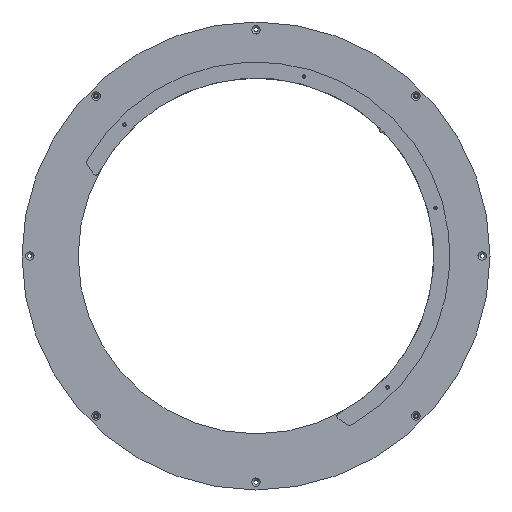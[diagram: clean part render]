
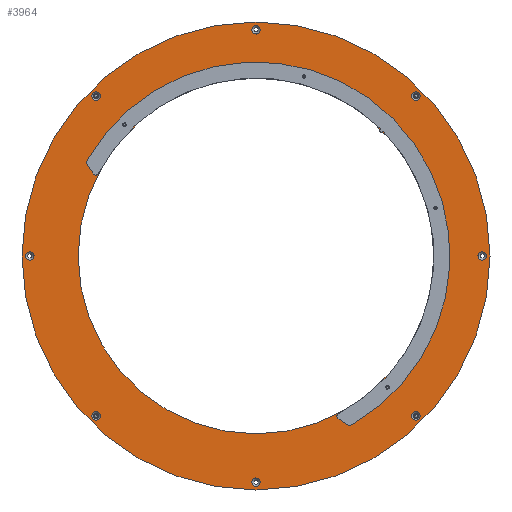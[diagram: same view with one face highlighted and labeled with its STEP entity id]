
A CAD part, front view. The second image highlights one B-rep face of the part: STEP entity #3964.
In plain terms, the highlighted planar face has unit normal (0, -1, 0).
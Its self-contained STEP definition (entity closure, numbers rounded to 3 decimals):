
#499=ORIENTED_EDGE('',*,*,#1134,.F.);
#500=ORIENTED_EDGE('',*,*,#1135,.F.);
#501=ORIENTED_EDGE('',*,*,#1136,.F.);
#502=ORIENTED_EDGE('',*,*,#1137,.F.);
#503=ORIENTED_EDGE('',*,*,#1138,.T.);
#504=ORIENTED_EDGE('',*,*,#1133,.F.);
#505=ORIENTED_EDGE('',*,*,#1106,.F.);
#506=ORIENTED_EDGE('',*,*,#1108,.F.);
#507=ORIENTED_EDGE('',*,*,#1110,.F.);
#508=ORIENTED_EDGE('',*,*,#1112,.F.);
#509=ORIENTED_EDGE('',*,*,#1114,.F.);
#510=ORIENTED_EDGE('',*,*,#1116,.F.);
#511=ORIENTED_EDGE('',*,*,#1118,.F.);
#512=ORIENTED_EDGE('',*,*,#1120,.F.);
#1106=EDGE_CURVE('',#1430,#1430,#1696,.T.);
#1108=EDGE_CURVE('',#1432,#1432,#1698,.T.);
#1110=EDGE_CURVE('',#1434,#1434,#1700,.T.);
#1112=EDGE_CURVE('',#1436,#1436,#1702,.T.);
#1114=EDGE_CURVE('',#1438,#1438,#1704,.T.);
#1116=EDGE_CURVE('',#1440,#1440,#1706,.T.);
#1118=EDGE_CURVE('',#1442,#1442,#1708,.T.);
#1120=EDGE_CURVE('',#1444,#1444,#1710,.T.);
#1133=EDGE_CURVE('',#1457,#1457,#1723,.T.);
#1134=EDGE_CURVE('',#1458,#1458,#1724,.T.);
#1135=EDGE_CURVE('',#1459,#1459,#1725,.T.);
#1136=EDGE_CURVE('',#1460,#1460,#1726,.T.);
#1137=EDGE_CURVE('',#1461,#1461,#1727,.T.);
#1138=EDGE_CURVE('',#1462,#1462,#1728,.T.);
#1430=VERTEX_POINT('',#5455);
#1432=VERTEX_POINT('',#5460);
#1434=VERTEX_POINT('',#5465);
#1436=VERTEX_POINT('',#5470);
#1438=VERTEX_POINT('',#5475);
#1440=VERTEX_POINT('',#5480);
#1442=VERTEX_POINT('',#5485);
#1444=VERTEX_POINT('',#5490);
#1457=VERTEX_POINT('',#5529);
#1458=VERTEX_POINT('',#5532);
#1459=VERTEX_POINT('',#5534);
#1460=VERTEX_POINT('',#5536);
#1461=VERTEX_POINT('',#5538);
#1462=VERTEX_POINT('',#5540);
#1696=CIRCLE('',#4170,3.15);
#1698=CIRCLE('',#4173,3.15);
#1700=CIRCLE('',#4176,3.15);
#1702=CIRCLE('',#4179,3.15);
#1704=CIRCLE('',#4182,3.15);
#1706=CIRCLE('',#4185,3.15);
#1708=CIRCLE('',#4188,3.15);
#1710=CIRCLE('',#4191,3.15);
#1723=CIRCLE('',#4217,132.5);
#1724=CIRCLE('',#4219,2.1);
#1725=CIRCLE('',#4220,2.1);
#1726=CIRCLE('',#4221,2.1);
#1727=CIRCLE('',#4222,2.1);
#1728=CIRCLE('',#4223,174.3);
#1903=EDGE_LOOP('',(#499));
#1904=EDGE_LOOP('',(#500));
#1905=EDGE_LOOP('',(#501));
#1906=EDGE_LOOP('',(#502));
#1907=EDGE_LOOP('',(#503));
#1908=EDGE_LOOP('',(#504));
#1909=EDGE_LOOP('',(#505));
#1910=EDGE_LOOP('',(#506));
#1911=EDGE_LOOP('',(#507));
#1912=EDGE_LOOP('',(#508));
#1913=EDGE_LOOP('',(#509));
#1914=EDGE_LOOP('',(#510));
#1915=EDGE_LOOP('',(#511));
#1916=EDGE_LOOP('',(#512));
#2271=FACE_BOUND('',#1903,.T.);
#2272=FACE_BOUND('',#1904,.T.);
#2273=FACE_BOUND('',#1905,.T.);
#2274=FACE_BOUND('',#1906,.T.);
#2275=FACE_BOUND('',#1907,.T.);
#2276=FACE_BOUND('',#1908,.T.);
#2277=FACE_BOUND('',#1909,.T.);
#2278=FACE_BOUND('',#1910,.T.);
#2279=FACE_BOUND('',#1911,.T.);
#2280=FACE_BOUND('',#1912,.T.);
#2281=FACE_BOUND('',#1913,.T.);
#2282=FACE_BOUND('',#1914,.T.);
#2283=FACE_BOUND('',#1915,.T.);
#2284=FACE_BOUND('',#1916,.T.);
#2592=PLANE('',#4218);
#3964=ADVANCED_FACE('',(#2271,#2272,#2273,#2274,#2275,#2276,#2277,#2278,
#2279,#2280,#2281,#2282,#2283,#2284),#2592,.T.);
#4170=AXIS2_PLACEMENT_3D('',#5454,#4553,#4554);
#4173=AXIS2_PLACEMENT_3D('',#5459,#4559,#4560);
#4176=AXIS2_PLACEMENT_3D('',#5464,#4565,#4566);
#4179=AXIS2_PLACEMENT_3D('',#5469,#4571,#4572);
#4182=AXIS2_PLACEMENT_3D('',#5474,#4577,#4578);
#4185=AXIS2_PLACEMENT_3D('',#5479,#4583,#4584);
#4188=AXIS2_PLACEMENT_3D('',#5484,#4589,#4590);
#4191=AXIS2_PLACEMENT_3D('',#5489,#4595,#4596);
#4217=AXIS2_PLACEMENT_3D('',#5528,#4647,#4648);
#4218=AXIS2_PLACEMENT_3D('',#5530,#4649,#4650);
#4219=AXIS2_PLACEMENT_3D('',#5531,#4651,#4652);
#4220=AXIS2_PLACEMENT_3D('',#5533,#4653,#4654);
#4221=AXIS2_PLACEMENT_3D('',#5535,#4655,#4656);
#4222=AXIS2_PLACEMENT_3D('',#5537,#4657,#4658);
#4223=AXIS2_PLACEMENT_3D('',#5539,#4659,#4660);
#4553=DIRECTION('',(0.,-1.,0.));
#4554=DIRECTION('',(0.,0.,-1.));
#4559=DIRECTION('',(0.,-1.,0.));
#4560=DIRECTION('',(0.,0.,-1.));
#4565=DIRECTION('',(0.,-1.,0.));
#4566=DIRECTION('',(0.,0.,-1.));
#4571=DIRECTION('',(0.,-1.,0.));
#4572=DIRECTION('',(0.,0.,-1.));
#4577=DIRECTION('',(0.,-1.,0.));
#4578=DIRECTION('',(0.,0.,-1.));
#4583=DIRECTION('',(0.,-1.,0.));
#4584=DIRECTION('',(0.,0.,-1.));
#4589=DIRECTION('',(0.,-1.,0.));
#4590=DIRECTION('',(0.,0.,-1.));
#4595=DIRECTION('',(0.,-1.,0.));
#4596=DIRECTION('',(0.,0.,-1.));
#4647=DIRECTION('',(0.,-1.,0.));
#4648=DIRECTION('',(0.,0.,-1.));
#4649=DIRECTION('',(0.,-1.,0.));
#4650=DIRECTION('',(0.,0.,-1.));
#4651=DIRECTION('',(0.,-1.,0.));
#4652=DIRECTION('',(0.,0.,-1.));
#4653=DIRECTION('',(0.,-1.,0.));
#4654=DIRECTION('',(0.,0.,-1.));
#4655=DIRECTION('',(0.,-1.,0.));
#4656=DIRECTION('',(0.,0.,-1.));
#4657=DIRECTION('',(0.,-1.,0.));
#4658=DIRECTION('',(0.,0.,-1.));
#4659=DIRECTION('',(0.,-1.,0.));
#4660=DIRECTION('',(1.,0.,0.));
#5454=CARTESIAN_POINT('',(168.5,-2.,0.));
#5455=CARTESIAN_POINT('',(168.5,-2.,-3.15));
#5459=CARTESIAN_POINT('',(0.,-2.,-168.5));
#5460=CARTESIAN_POINT('',(0.,-2.,-171.65));
#5464=CARTESIAN_POINT('',(-168.5,-2.,0.));
#5465=CARTESIAN_POINT('',(-168.5,-2.,-3.15));
#5469=CARTESIAN_POINT('',(0.,-2.,168.5));
#5470=CARTESIAN_POINT('',(0.,-2.,165.35));
#5474=CARTESIAN_POINT('',(119.147,-2.,-119.147));
#5475=CARTESIAN_POINT('',(119.147,-2.,-122.297));
#5479=CARTESIAN_POINT('',(-119.147,-2.,-119.147));
#5480=CARTESIAN_POINT('',(-119.147,-2.,-122.297));
#5484=CARTESIAN_POINT('',(-119.147,-2.,119.147));
#5485=CARTESIAN_POINT('',(-119.147,-2.,115.997));
#5489=CARTESIAN_POINT('',(119.147,-2.,119.147));
#5490=CARTESIAN_POINT('',(119.147,-2.,115.997));
#5528=CARTESIAN_POINT('',(0.,-2.,0.));
#5529=CARTESIAN_POINT('',(0.,-2.,-132.5));
#5530=CARTESIAN_POINT('',(0.,-2.,0.));
#5531=CARTESIAN_POINT('',(97.934,-2.,-97.934));
#5532=CARTESIAN_POINT('',(97.934,-2.,-100.034));
#5533=CARTESIAN_POINT('',(-97.934,-2.,97.934));
#5534=CARTESIAN_POINT('',(-97.934,-2.,95.834));
#5535=CARTESIAN_POINT('',(35.846,-2.,133.781));
#5536=CARTESIAN_POINT('',(35.846,-2.,131.681));
#5537=CARTESIAN_POINT('',(133.781,-2.,35.846));
#5538=CARTESIAN_POINT('',(133.781,-2.,33.746));
#5539=CARTESIAN_POINT('',(0.,-2.,0.));
#5540=CARTESIAN_POINT('',(174.3,-2.,0.));
